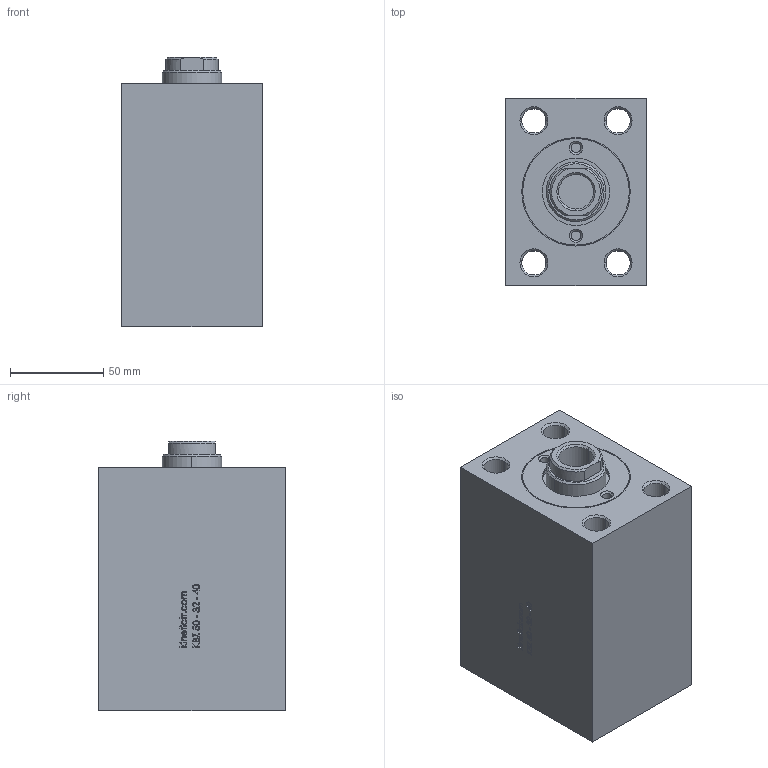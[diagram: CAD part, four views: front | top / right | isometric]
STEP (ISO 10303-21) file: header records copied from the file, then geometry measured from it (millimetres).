
FILE_DESCRIPTION (( 'STEP AP214' ), '1' );
FILE_NAME ('KBZ_02_50_32_65.STEP', '2018-12-29T16:06:00', ( '' ), ( '' ), 'SwSTEP 2.0', 'SolidWorks 2018', '' );
FILE_SCHEMA (( 'AUTOMOTIVE_DESIGN' ));
Length unit declared in the file: millimetre
Products named in the file (5): KBZ_50-32_ON_KAPAK; KBZ_50_PÝSTON; 32_M尳; 50-32-40-GOVDE; KBZ_02_50_32_65
Assembly tree (4 placements, depth 2):
  KBZ_02_50_32_65
    50-32-40-GOVDE
    32_M尳
    KBZ_50_PÝSTON
    KBZ_50-32_ON_KAPAK
Bounding box: 75 x 100 x 144 mm (x, y, z)
Volume: 804376.6 mm3; surface area: 138724 mm2
Topology: 4 solids, 4 shells, 481 faces, 1177 edges, 760 vertices
Faces by surface type: plane 211, bspline 124, cone 73, cylinder 73
Entity records: 21105 total; most frequent: CARTESIAN_POINT 10069, ORIENTED_EDGE 2354, DIRECTION 1864, EDGE_CURVE 1177, VERTEX_POINT 760, VECTOR 706, LINE 706, AXIS2_PLACEMENT_3D 579
